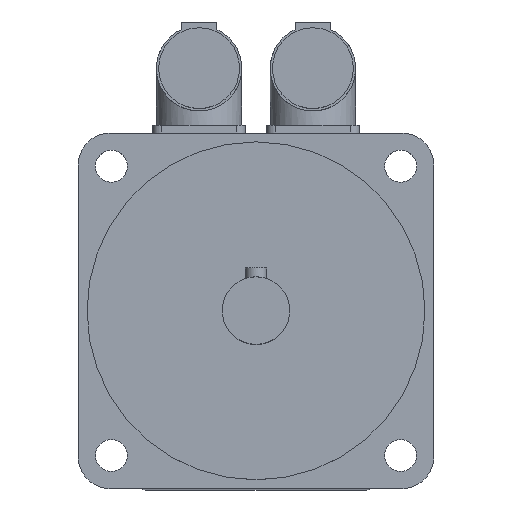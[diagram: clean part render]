
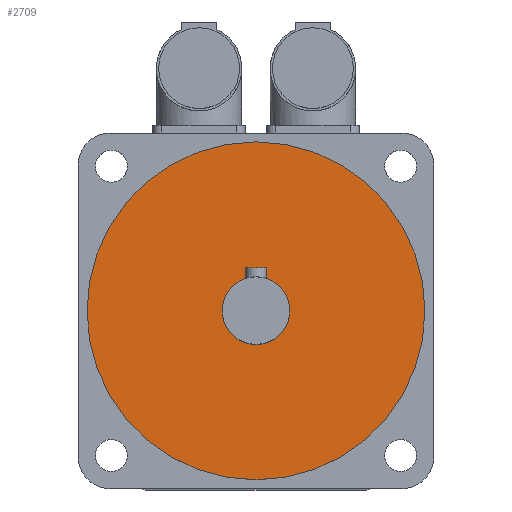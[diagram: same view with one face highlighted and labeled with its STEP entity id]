
A CAD part, top view. The second image highlights one B-rep face of the part: STEP entity #2709.
In plain terms, the highlighted planar face has unit normal (0, 0, 1).
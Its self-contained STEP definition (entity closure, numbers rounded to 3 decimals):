
#44=FACE_BOUND('',#455,.T.);
#72=CIRCLE('',#2874,9.5);
#73=CIRCLE('',#2877,47.5);
#289=FACE_OUTER_BOUND('',#454,.T.);
#454=EDGE_LOOP('',(#1842));
#455=EDGE_LOOP('',(#1843));
#1150=VERTEX_POINT('',#4096);
#1151=VERTEX_POINT('',#4100);
#1420=EDGE_CURVE('',#1150,#1150,#72,.T.);
#1421=EDGE_CURVE('',#1151,#1151,#73,.T.);
#1842=ORIENTED_EDGE('',*,*,#1421,.T.);
#1843=ORIENTED_EDGE('',*,*,#1420,.T.);
#2629=PLANE('',#2879);
#2709=ADVANCED_FACE('',(#289,#44),#2629,.F.);
#2874=AXIS2_PLACEMENT_3D('',#4097,#3197,#3198);
#2877=AXIS2_PLACEMENT_3D('',#4101,#3203,#3204);
#2879=AXIS2_PLACEMENT_3D('',#4104,#3207,#3208);
#3197=DIRECTION('center_axis',(0.,0.,-1.));
#3198=DIRECTION('ref_axis',(-1.,0.,0.));
#3203=DIRECTION('center_axis',(0.,0.,
1.));
#3204=DIRECTION('ref_axis',(-1.,0.,0.));
#3207=DIRECTION('center_axis',(0.,0.,-1.));
#3208=DIRECTION('ref_axis',(-1.,0.,0.));
#4096=CARTESIAN_POINT('',(9.5,0.,194.));
#4097=CARTESIAN_POINT('Origin',(0.,0.,
194.));
#4100=CARTESIAN_POINT('',(47.5,0.,194.));
#4101=CARTESIAN_POINT('Origin',(0.,0.,
194.));
#4104=CARTESIAN_POINT('Origin',(0.,0.,
194.));
